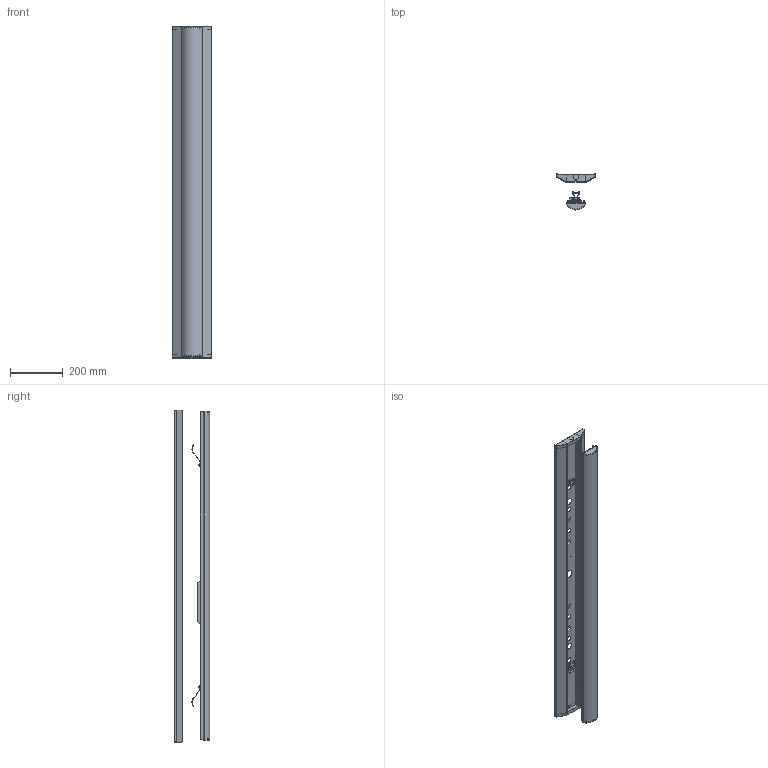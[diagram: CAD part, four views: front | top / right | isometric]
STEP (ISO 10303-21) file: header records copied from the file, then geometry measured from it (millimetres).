
FILE_DESCRIPTION (( 'STEP AP214' ), '1' );
FILE_NAME ('150_1.STEP', '2025-04-20T06:34:35', ( '' ), ( '' ), 'SwSTEP 2.0', 'SolidWorks 2014', '' );
FILE_SCHEMA (( 'AUTOMOTIVE_DESIGN' ));
Length unit declared in the file: millimetre
Products named in the file (17): 電源ケース; Component5; 150_1; ライトベース; spring_1 v2; 150_組; Component2; Base_組; 引掛け金具; 拡散カバー組; ばね組_1 v2; 150_サイドカバー; PC拡散; 150_ベース; サイドプレート
Assembly tree (20 placements, depth 6):
  150_1
    150_組
      150_ベース
      150_サイドカバー  x2
      引掛け金具  x2
    Base_組
      ライトベース
      電源ケース
      拡散カバー組
        サイドプレート  x2
        PC拡散
      ばね組_1 v2  x2
        ばね組_1 v2
          Component2
          spring_1 v2
            spring_1 v2
            Component5
Bounding box: 150 x 135.28 x 1260.5 mm (x, y, z)
Volume: 321449.8 mm3; surface area: 1270525.4 mm2
Topology: 20 solids, 20 shells, 987 faces, 2840 edges, 1867 vertices
Faces by surface type: plane 633, cylinder 290, sphere 24, torus 20, bspline 20
Entity records: 26180 total; most frequent: CARTESIAN_POINT 8168, ORIENTED_EDGE 3740, DIRECTION 3489, EDGE_CURVE 1870, LINE 1359, VECTOR 1359, VERTEX_POINT 1233, AXIS2_PLACEMENT_3D 1065
